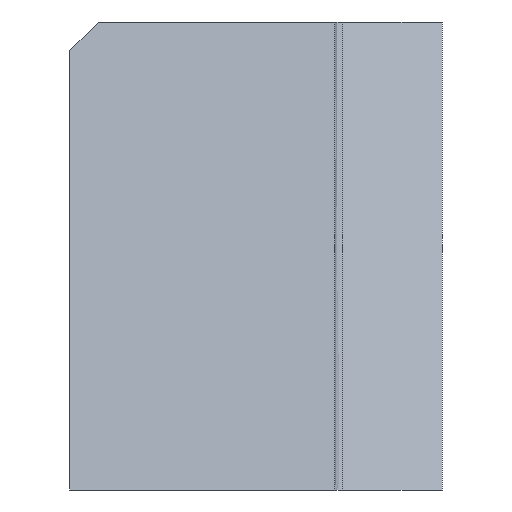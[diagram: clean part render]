
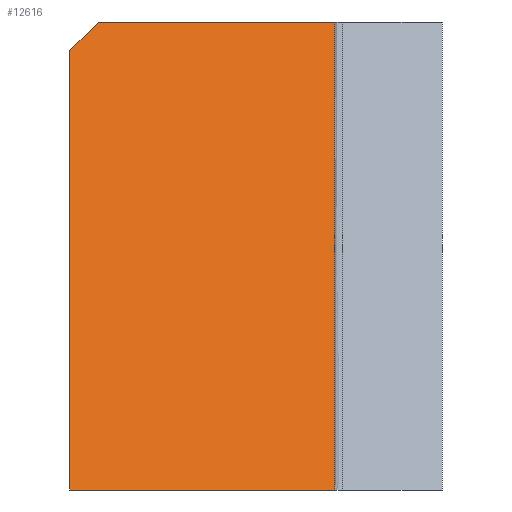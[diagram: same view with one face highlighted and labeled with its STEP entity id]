
A CAD part, left-side view. The second image highlights one B-rep face of the part: STEP entity #12616.
In plain terms, the highlighted planar face has unit normal (-0.943, 0, 0.334).
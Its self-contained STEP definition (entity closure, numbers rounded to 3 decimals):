
#1599=ORIENTED_EDGE('',*,*,#5401,.F.);
#1600=ORIENTED_EDGE('',*,*,#5402,.T.);
#1601=ORIENTED_EDGE('',*,*,#4558,.F.);
#1602=ORIENTED_EDGE('',*,*,#5403,.F.);
#1603=ORIENTED_EDGE('',*,*,#5038,.F.);
#4558=EDGE_CURVE('',#6459,#6460,#7700,.T.);
#5038=EDGE_CURVE('',#6938,#6940,#8029,.T.);
#5401=EDGE_CURVE('',#7302,#6938,#8272,.T.);
#5402=EDGE_CURVE('',#7302,#6460,#8273,.T.);
#5403=EDGE_CURVE('',#6940,#6459,#8274,.T.);
#6459=VERTEX_POINT('',#17862);
#6460=VERTEX_POINT('',#17863);
#6938=VERTEX_POINT('',#19336);
#6940=VERTEX_POINT('',#19339);
#7302=VERTEX_POINT('',#20065);
#7700=LINE('',#17861,#9199);
#8029=LINE('',#19338,#9528);
#8272=LINE('',#20064,#9771);
#8273=LINE('',#20066,#9772);
#8274=LINE('',#20067,#9773);
#9199=VECTOR('',#14170,1000.);
#9528=VECTOR('',#14741,1000.);
#9771=VECTOR('',#15226,1000.);
#9772=VECTOR('',#15227,1000.);
#9773=VECTOR('',#15228,1000.);
#10641=EDGE_LOOP('',(#1599,#1600,#1601,#1602,#1603));
#11402=FACE_BOUND('',#10641,.T.);
#12122=PLANE('',#13566);
#12616=ADVANCED_FACE('',(#11402),#12122,.T.);
#13566=AXIS2_PLACEMENT_3D('',#20063,#15224,#15225);
#14170=DIRECTION('',(0.,1.,0.));
#14741=DIRECTION('',(0.,-1.,0.));
#15224=DIRECTION('',(-0.942,0.,0.334));
#15225=DIRECTION('',(0.,1.,0.));
#15226=DIRECTION('',(0.243,-0.686,0.686));
#15227=DIRECTION('',(-0.334,0.,-0.942));
#15228=DIRECTION('',(-0.334,0.,-0.942));
#17861=CARTESIAN_POINT('',(-17.379,0.,-49.));
#17862=CARTESIAN_POINT('',(-17.379,-27.75,-49.));
#17863=CARTESIAN_POINT('',(-17.379,0.,-49.));
#19336=CARTESIAN_POINT('',(0.,-3.,0.));
#19338=CARTESIAN_POINT('',(0.,0.,0.));
#19339=CARTESIAN_POINT('',(0.,-27.75,0.));
#20063=CARTESIAN_POINT('',(0.,-27.75,0.));
#20064=CARTESIAN_POINT('',(1.938,-8.463,5.463));
#20065=CARTESIAN_POINT('',(-1.064,0.,-3.));
#20066=CARTESIAN_POINT('',(0.,0.,0.));
#20067=CARTESIAN_POINT('',(0.,-27.75,0.));
